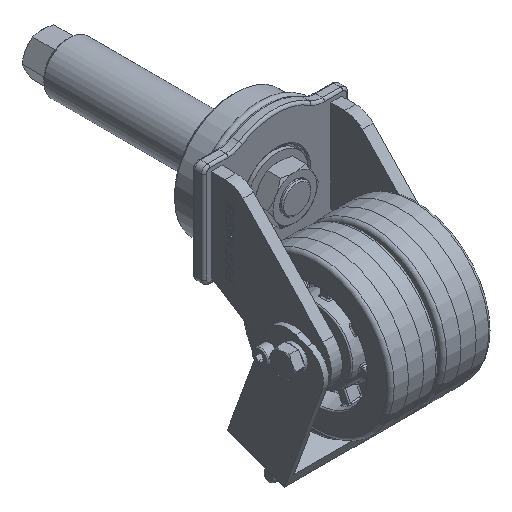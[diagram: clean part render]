
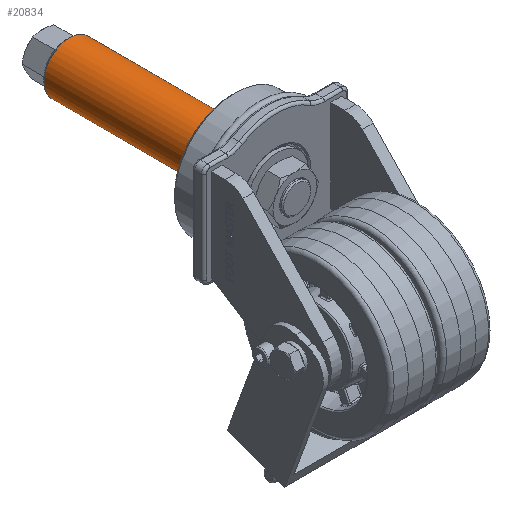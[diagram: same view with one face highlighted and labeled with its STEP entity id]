
A CAD part, isometric view. The second image highlights one B-rep face of the part: STEP entity #20834.
In plain terms, the highlighted cylindrical face has radius 21 mm (diameter 42 mm), a full revolution.
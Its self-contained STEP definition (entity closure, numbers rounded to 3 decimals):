
#1522=CYLINDRICAL_SURFACE('',#22980,21.);
#3320=FACE_OUTER_BOUND('',#4701,.T.);
#4701=EDGE_LOOP('',(#19210,#19211,#19212,#19213,#19214));
#5833=LINE('',#49134,#6933);
#6933=VECTOR('',#28244,21.);
#8223=CIRCLE('',#22975,21.);
#8224=CIRCLE('',#22977,21.);
#8226=CIRCLE('',#22979,21.);
#10080=VERTEX_POINT('',#49123);
#10081=VERTEX_POINT('',#49126);
#10082=VERTEX_POINT('',#49127);
#13147=EDGE_CURVE('',#10080,#10080,#8223,.T.);
#13148=EDGE_CURVE('',#10081,#10082,#8224,.T.);
#13151=EDGE_CURVE('',#10082,#10081,#8226,.T.);
#13152=EDGE_CURVE('',#10081,#10080,#5833,.T.);
#19210=ORIENTED_EDGE('',*,*,#13148,.F.);
#19211=ORIENTED_EDGE('',*,*,#13152,.T.);
#19212=ORIENTED_EDGE('',*,*,#13147,.F.);
#19213=ORIENTED_EDGE('',*,*,#13152,.F.);
#19214=ORIENTED_EDGE('',*,*,#13151,.F.);
#20834=ADVANCED_FACE('',(#3320),#1522,.T.);
#22975=AXIS2_PLACEMENT_3D('',#49124,#28231,#28232);
#22977=AXIS2_PLACEMENT_3D('',#49128,#28235,#28236);
#22979=AXIS2_PLACEMENT_3D('',#49132,#28240,#28241);
#22980=AXIS2_PLACEMENT_3D('',#49133,#28242,#28243);
#28231=DIRECTION('center_axis',(0.,-1.,0.));
#28232=DIRECTION('ref_axis',(-1.,0.,0.));
#28235=DIRECTION('center_axis',(0.,1.,0.));
#28236=DIRECTION('ref_axis',(1.,0.,0.));
#28240=DIRECTION('center_axis',(0.,1.,0.));
#28241=DIRECTION('ref_axis',(1.,0.,0.));
#28242=DIRECTION('center_axis',(0.,1.,0.));
#28243=DIRECTION('ref_axis',(-1.,0.,0.));
#28244=DIRECTION('',(0.,-1.,0.));
#49123=CARTESIAN_POINT('',(21.,31.,0.));
#49124=CARTESIAN_POINT('Origin',(0.,31.,0.));
#49126=CARTESIAN_POINT('',(21.,158.,0.));
#49127=CARTESIAN_POINT('',(-21.,158.,0.));
#49128=CARTESIAN_POINT('Origin',(0.,158.,0.));
#49132=CARTESIAN_POINT('Origin',(0.,158.,0.));
#49133=CARTESIAN_POINT('Origin',(0.,31.,0.));
#49134=CARTESIAN_POINT('',(21.,31.,0.));
